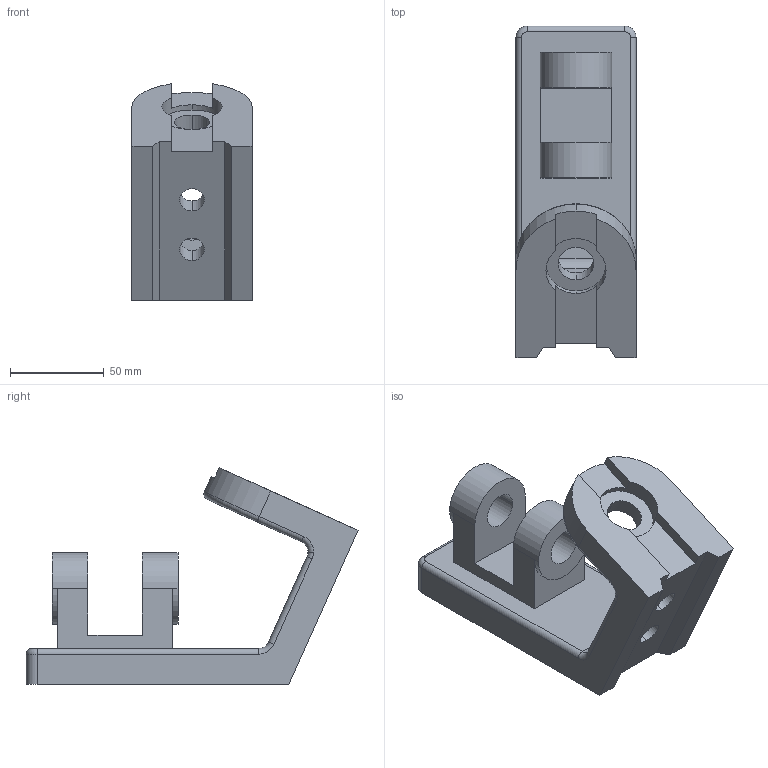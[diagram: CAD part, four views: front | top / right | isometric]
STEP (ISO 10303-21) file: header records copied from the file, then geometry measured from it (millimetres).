
FILE_DESCRIPTION(('STEP AP214'),'1');
FILE_NAME('DT- Support de Commande 841.step','2017-02-06T08:43:32',(' '),(' '),'Spatial InterOp 3D',' ',' ');
FILE_SCHEMA(('AUTOMOTIVE_DESIGN { 1 0 10303 214 1 1 1 1 }'));
Length unit declared in the file: millimetre
Products named in the file (1): 1
Bounding box: 64 x 176.92 x 115.33 mm (x, y, z)
Volume: 350014.7 mm3; surface area: 59924.8 mm2
Topology: 1 solids, 1 shells, 70 faces, 180 edges, 113 vertices
Faces by surface type: cylinder 30, plane 30, torus 10
Entity records: 2731 total; most frequent: DIRECTION 401, CARTESIAN_POINT 364, ORIENTED_EDGE 360, EDGE_CURVE 180, AXIS2_PLACEMENT_3D 150, VERTEX_POINT 113, LINE 101, VECTOR 101
